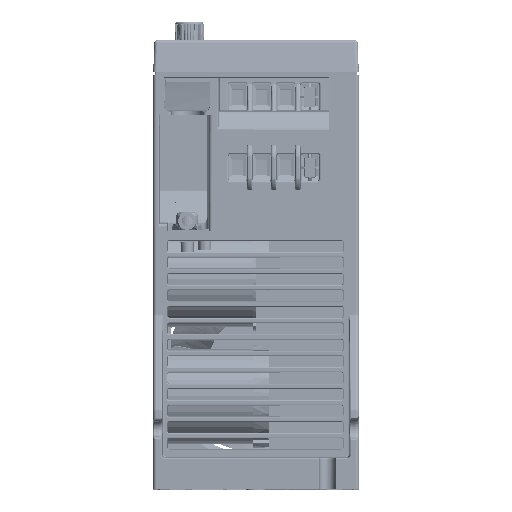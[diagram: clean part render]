
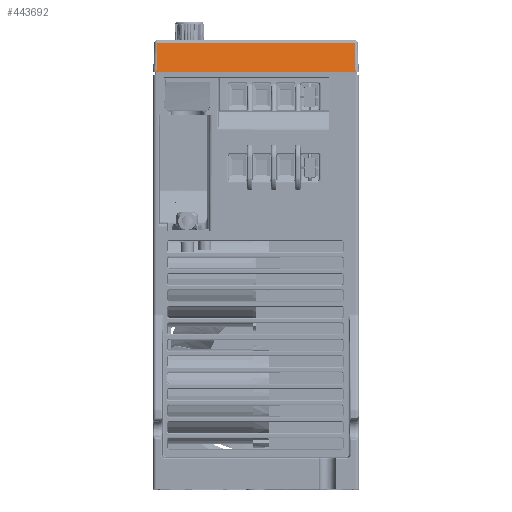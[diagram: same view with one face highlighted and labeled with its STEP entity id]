
A CAD part, top view. The second image highlights one B-rep face of the part: STEP entity #443692.
In plain terms, the highlighted planar face has unit normal (0, 0.174, 0.985).
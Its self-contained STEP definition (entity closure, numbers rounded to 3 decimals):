
#432144=CARTESIAN_POINT('',(-39.94,37.76,
-117.515));
#432161=CARTESIAN_POINT('',(23.001,37.76,
-117.515));
#433201=DIRECTION('',(-0.034,-0.984,0.174));
#433202=VECTOR('',#433201,9.321);
#433203=CARTESIAN_POINT('',(-39.62,46.934,
-119.133));
#433204=LINE('',#433203,#433202);
#433208=DIRECTION('',(-1.,0.,0.));
#433209=VECTOR('',#433208,62.3);
#433210=CARTESIAN_POINT('',(22.68,46.934,
-119.133));
#433211=LINE('',#433210,#433209);
#433215=DIRECTION('',(-0.034,0.984,-0.174));
#433216=VECTOR('',#433215,9.321);
#433217=CARTESIAN_POINT('',(23.001,37.76,
-117.515));
#433218=LINE('',#433217,#433216);
#433222=DIRECTION('',(-1.,0.,0.));
#433223=VECTOR('',#433222,62.941);
#433224=CARTESIAN_POINT('',(23.001,37.76,
-117.515));
#433225=LINE('',#433224,#433223);
#436669=VERTEX_POINT('',#432144);
#436673=CARTESIAN_POINT('',(-39.62,46.934,
-119.133));
#436674=VERTEX_POINT('',#436673);
#436677=CARTESIAN_POINT('',(22.68,46.934,
-119.133));
#436678=VERTEX_POINT('',#436677);
#436684=VERTEX_POINT('',#432161);
#443680=CARTESIAN_POINT('',(28.218,37.76,
-117.515));
#443681=DIRECTION('',(0.,0.174,0.985));
#443682=DIRECTION('',(-1.,0.,0.));
#443683=AXIS2_PLACEMENT_3D('',#443680,#443681,#443682);
#443684=PLANE('',#443683);
#443685=ORIENTED_EDGE('',*,*,#443166,.F.);
#443687=ORIENTED_EDGE('',*,*,#443686,.F.);
#443688=ORIENTED_EDGE('',*,*,#443666,.F.);
#443689=ORIENTED_EDGE('',*,*,#442233,.T.);
#443690=EDGE_LOOP('',(#443685,#443687,#443688,#443689));
#443691=FACE_OUTER_BOUND('',#443690,.F.);
#442233=EDGE_CURVE('',#436684,#436669,#433225,.T.);
#443166=EDGE_CURVE('',#436674,#436669,#433204,.T.);
#443666=EDGE_CURVE('',#436684,#436678,#433218,.T.);
#443686=EDGE_CURVE('',#436678,#436674,#433211,.T.);
#443692=ADVANCED_FACE('',(#443691),#443684,.T.);
